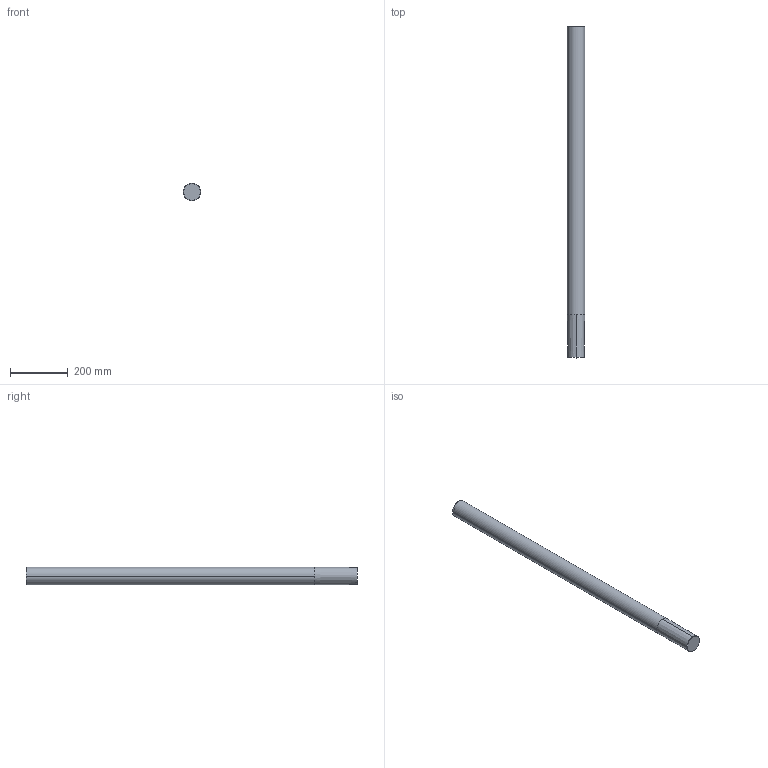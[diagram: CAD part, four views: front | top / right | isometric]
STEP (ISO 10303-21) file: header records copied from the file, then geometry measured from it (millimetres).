
FILE_DESCRIPTION((''),'2;1');
FILE_NAME('PRT0006','2025-07-01T09:23:06',('Piccioli'),(''),'CREO PARAMETRIC BY PTC INC, 2025010','CREO PARAMETRIC BY PTC INC, 2025010','');
FILE_SCHEMA(('CONFIG_CONTROL_DESIGN'));
Length unit declared in the file: millimetre
Products named in the file (1): PRT0006
Bounding box: 60 x 1150 x 60 mm (x, y, z)
Surface area: 221334.6 mm2 (no closed solid volume)
Topology: 0 solids, 4 shells, 9 faces, 56 edges, 50 vertices
Faces by surface type: cylinder 4, plane 3, cone 2
Entity records: 675 total; most frequent: CARTESIAN_POINT 189, DIRECTION 106, ORIENTED_EDGE 64, EDGE_CURVE 56, VERTEX_POINT 50, AXIS2_PLACEMENT_3D 45, CIRCLE 36, VECTOR 16
